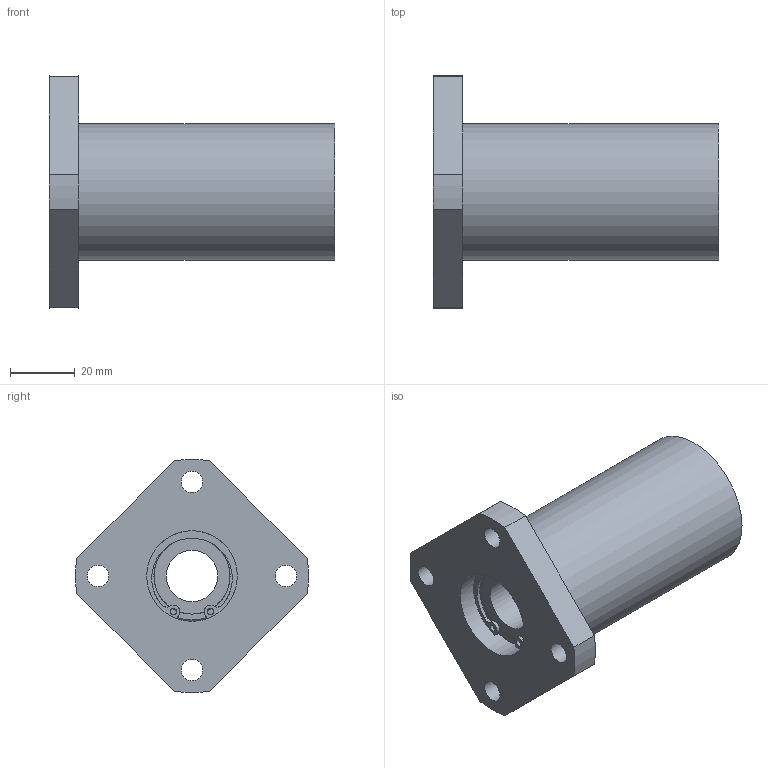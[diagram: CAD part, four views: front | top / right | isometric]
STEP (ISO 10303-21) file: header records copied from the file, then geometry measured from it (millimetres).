
FILE_DESCRIPTION((''),'2;1');
FILE_NAME('D:\製品 (図面)\カタログ用3D\リニアベアリング関連(改)\STEP形式\LFWK\LFWK16.stp','2010-01-22T15:57:06',('Tsuchiya'),(''),'Autodesk Inventor 10','Autodesk Inventor 10','');
FILE_SCHEMA(('AUTOMOTIVE_DESIGN { 1 0 10303 214 1 1 1 1 }'));
Length unit declared in the file: millimetre
Products named in the file (1): LFWK16
Bounding box: 88 x 71.91 x 71.91 mm (x, y, z)
Volume: 113813.1 mm3; surface area: 26717.9 mm2
Topology: 1 solids, 6 shells, 86 faces, 212 edges, 133 vertices
Faces by surface type: bspline 31, cylinder 28, plane 25, torus 2
Full cylindrical faces by diameter (mm): 2 x2, 6.647 x4, 16 x1, 23.5 x2, 26.6 x2, 28 x7, 42 x1
Entity records: 2578 total; most frequent: CARTESIAN_POINT 698, DIRECTION 398, ORIENTED_EDGE 330, AXIS2_PLACEMENT_3D 177, EDGE_CURVE 165, EDGE_LOOP 144, CIRCLE 121, VERTEX_POINT 117
